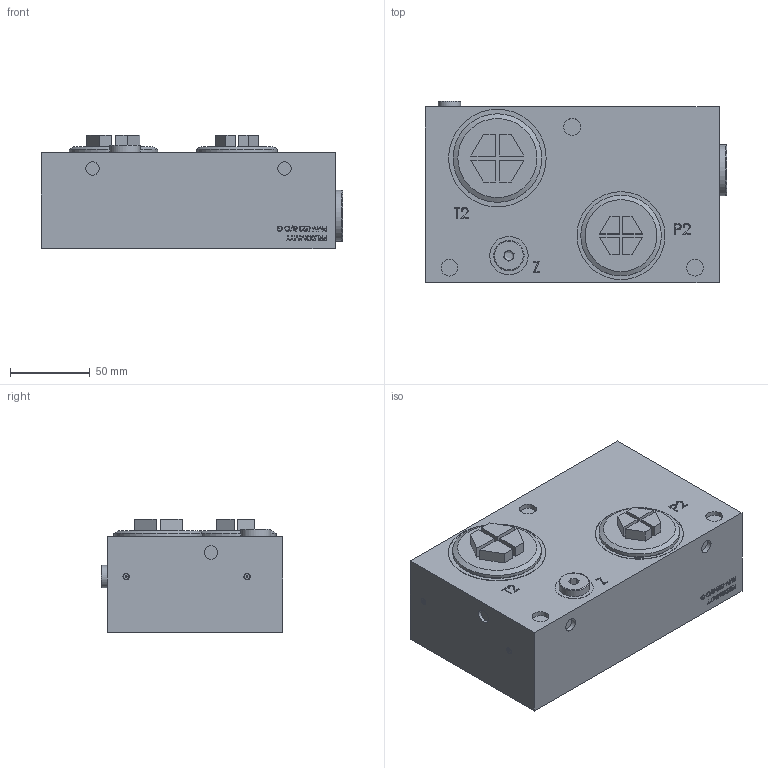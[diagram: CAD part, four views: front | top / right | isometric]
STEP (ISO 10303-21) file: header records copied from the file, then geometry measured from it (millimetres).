
FILE_DESCRIPTION (( 'STEP AP214' ), '1' );
FILE_NAME ('0304555.STEP', '2022-08-02T14:09:18', ( '' ), ( '' ), 'SwSTEP 2.0', 'SolidWorks 2020', '' );
FILE_SCHEMA (( 'AUTOMOTIVE_DESIGN' ));
Length unit declared in the file: millimetre
Products named in the file (8): 0295366_001; 0283782_001; 0304555; 0072022_238.1405; 0072022_238.2406; 0072022_238.7401; 0294714_002; 0295364_001
Assembly tree (8 placements, depth 2):
  0304555
    0294714_002
    0283782_001  x2
    0072022_238.1405
    0072022_238.7401
    0295364_001
    0295366_001
    0072022_238.2406
Bounding box: 188.3 x 113.7 x 70.7 mm (x, y, z)
Volume: 1239229.6 mm3; surface area: 106628.5 mm2
Topology: 13 solids, 13 shells, 645 faces, 1523 edges, 1001 vertices
Faces by surface type: plane 405, cylinder 90, bspline 88, cone 59, torus 3
Full cylindrical faces by diameter (mm): 0.6 x2, 1.1 x2, 3.5 x2, 3.767 x2, 4 x3, 5 x1, 8 x2, 8.3 x1, 8.4 x1, 8.5 x3, 8.566 x1, 9.7 x1, 10.5 x6, 11.3 x1, 11.445 x1, 11.6 x1, 11.9 x1, 11.91 x1, 13.2 x1, 14 x1, 16.5 x1, 16.51 x1, 18 x1, 19 x1, 22 x1, 23.8 x1, 23.9 x1, 24 x1, 24.117 x1, 26.4 x1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
Entity records: 22552 total; most frequent: CARTESIAN_POINT 8743, ORIENTED_EDGE 2688, DIRECTION 2468, EDGE_CURVE 1344, VERTEX_POINT 942, LINE 942, VECTOR 942, EDGE_LOOP 812
